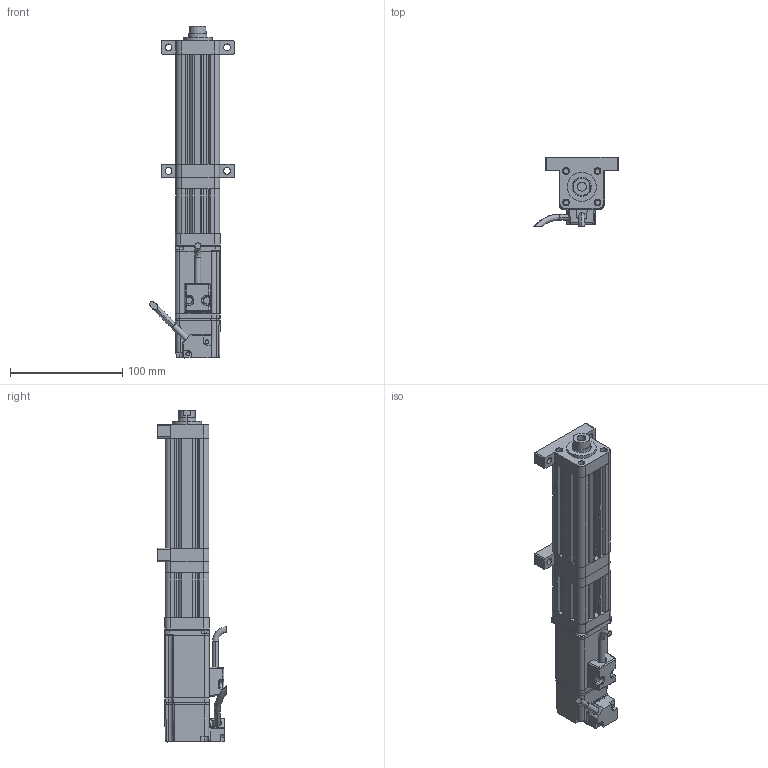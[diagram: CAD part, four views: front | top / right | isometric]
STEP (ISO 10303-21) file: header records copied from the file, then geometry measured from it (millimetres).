
FILE_DESCRIPTION (( 'STEP AP214' ), '1' );
FILE_NAME ('039-S50-D02-A-M2-C2-2.STEP', '2021-03-02T05:43:23', ( '' ), ( '' ), 'SwSTEP 2.0', 'SolidWorks 2018', '' );
FILE_SCHEMA (( 'AUTOMOTIVE_DESIGN' ));
Length unit declared in the file: millimetre
Products named in the file (9): CMC039-AZB; CMC039-DJZ; CMC039-GT; 039-S50-D02-A-M2-C2-2; ECMA-CX0401ES-40框號系列機種-100W低慣量系列; CMC039-QDB; CMC039-ZLLJB; CMC039-DT; CMC039-HDB
Assembly tree (8 placements, depth 2):
  039-S50-D02-A-M2-C2-2
    CMC039-GT
    CMC039-DT
    CMC039-ZLLJB
    CMC039-DJZ
    ECMA-CX0401ES-40框號系列機種-100W低慣量系列
    CMC039-AZB
    CMC039-HDB
    CMC039-QDB
Bounding box: 75.34 x 61.89 x 295.6 mm (x, y, z)
Volume: 356237 mm3; surface area: 106667.6 mm2
Topology: 8 solids, 16 shells, 735 faces, 1942 edges, 1223 vertices
Faces by surface type: cylinder 308, plane 306, bspline 84, cone 37
Entity records: 28972 total; most frequent: CARTESIAN_POINT 11393, ORIENTED_EDGE 3818, DIRECTION 3159, EDGE_CURVE 1909, VERTEX_POINT 1223, AXIS2_PLACEMENT_3D 1076, LINE 1007, VECTOR 1007
